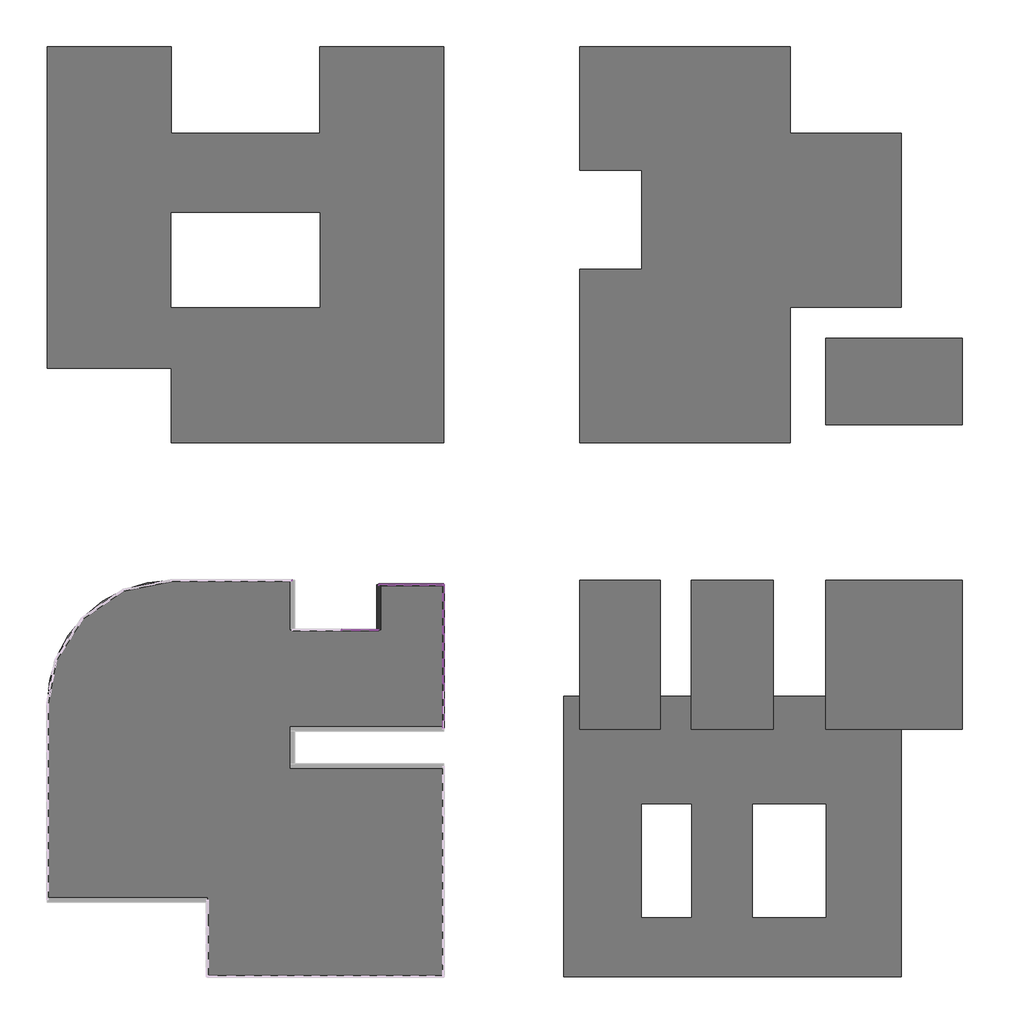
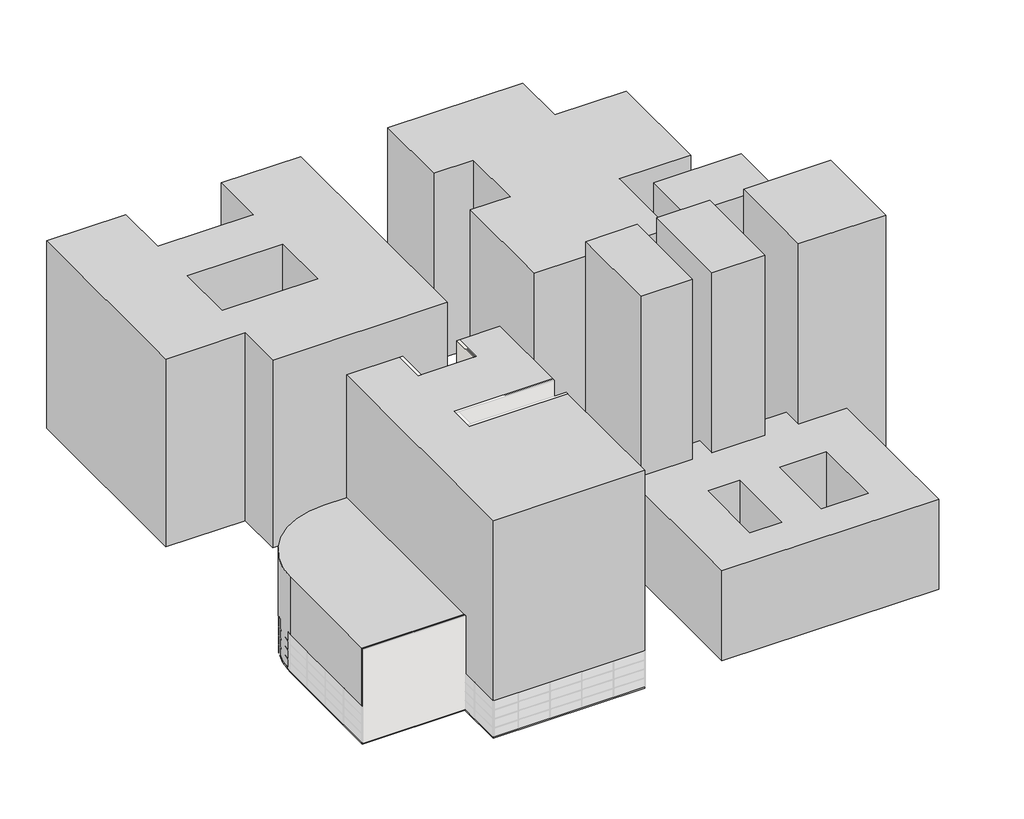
# One storey, part 4 of 4: 60 members, 20 plates, 4 proxies, 1 slab, 1 wall.
"""IFC4 building model written with IfcOpenShell, lengths in millimetres."""

from ifc_helpers import new_model, si_unit, point, frame, frame_2d, origin, origin_with_axes, place, context, project, spatial, polyline, circle_curve, trimmed, segment, composite_curve, outline, extrude, transform, mapped, element, save
from ifc_brep_helpers import plane_surface, cylinder_surface, advanced_brep
from components import rectangular_mullion_50_x_150mm_d99dc9be, rectangular_mullion_50_x_150mm_182bfbd5, rectangular_mullion_50_x_150mm_402ab136, rectangular_mullion_50_x_150mm_6588f46c, rectangular_mullion_50_x_150mm_3fe1b35e, rectangular_mullion_50_x_150mm_a037c29c, rectangular_mullion_50_x_150mm_c2546fd4, rectangular_mullion_50_x_150mm_5eb82d41, rectangular_mullion_50_x_150mm_1a85c1a0, rectangular_mullion_50_x_150mm_185cfd49, rectangular_mullion_50_x_150mm_2fe63767, rectangular_mullion_50_x_150mm_4a524db7, system_panel_glazed_ecbc047f, system_panel_glazed_0d1816dc, system_panel_glazed_8e9402eb, system_panel_glazed_89ac83a7, system_panel_glazed_29e23e46, system_panel_glazed_e3e91f99, system_panel_glazed_0c6ae723, system_panel_glazed_39d17f19

model = new_model("IFC4")

# Units and contexts
model_context = context("Model", 3, world=origin())
ifc_project = project(units=[si_unit("LENGTHUNIT", "METRE", prefix="MILLI")], contexts=[model_context])

# Site, building, storey
site = spatial("IfcSite", under=ifc_project)
building = spatial("IfcBuilding", under=site)
storey = spatial("IfcBuildingStorey", under=building, Name="Suteren", Elevation=0.0)

# Proxies
placement = place(None, origin())
element("IfcBuildingElementProxy", 1, Name="Budova 1 : Budova 1", ObjectType="Budova 1 : Budova 1", at=placement, inside=storey, context=model_context, shape_type="SweptSolid", body=[
    extrude(outline(polyline([(24503.2660975, 41519.7749227), (24503.2660975, 51519.7749227), (41503.2660975, 51519.7749227), (41503.2660975, 44519.7749227), (50503.2660975, 44519.7749227), (50503.2660975, 30457.4517739), (41503.2660975, 30457.4517739), (41503.2660975, 19519.7749227), (24503.2660975, 19519.7749227), (24503.2660975, 33519.7749227), (29503.2660975, 33519.7749227), (29503.2660975, 41519.7749227), (24503.2660975, 41519.7749227)])), origin_with_axes(), (0.0, 0.0, 1.0), 25000.0),
    extrude(outline(polyline([(44401.4778879, 20957.9625489), (44401.4778879, 27957.9625489), (55401.4778879, 27957.9625489), (55401.4778879, 20957.9625489), (44401.4778879, 20957.9625489)])), origin_with_axes(), (0.0, 0.0, 1.0), 25000.0),
])
element("IfcBuildingElementProxy", 2, Name="Budova 2 : Budova 2", ObjectType="Budova 2 : Budova 2", at=placement, inside=storey, context=model_context, shape_type="SweptSolid", body=[
    extrude(outline(polyline([(-18496.7339025, 25519.7749227), (-18496.7339025, 51519.7749227), (-8496.7339025, 51519.7749227), (-8496.7339025, 44519.7749227), (3503.2660975, 44519.7749227), (3503.2660975, 51519.7749227), (13503.2660975, 51519.7749227), (13503.2660975, 19519.7749227), (-8496.7339025, 19519.7749227), (-8496.7339025, 25519.7749227), (-18496.7339025, 25519.7749227)]), holes=[polyline([(-8496.7339025, 38101.0367875), (-8496.7339025, 30457.4517739), (3503.2660975, 30457.4517739), (3503.2660975, 38101.0367875), (-8496.7339025, 38101.0367875)])]), origin_with_axes(), (0.0, 0.0, 1.0), 25000.0),
])
element("IfcBuildingElementProxy", 3, Name="Budova 3 : Budova 3", ObjectType="Budova 3 : Budova 3", at=placement, inside=storey, context=model_context, shape_type="AdvancedBrep", body=[
    advanced_brep(
    [(-5587.173406, 8375.9839566, 28773.2453384), (-5587.173406, -23624.0160434, 28773.2453384), (13503.2660975, -23624.0160434, 28773.2453384), (13503.2660975, -6624.0160434, 28773.2453384), (1278.419219, -6624.0160434, 28773.2453384), (1278.419219, -3624.0160434, 28773.2453384), (13503.2660975, -3624.0160434, 28773.2453384), (13503.2660975, 8039.3555415, 28773.2453384), (8278.419219, 8039.3555415, 28773.2453384), (8278.419219, 4375.9839566, 28773.2453384), (1278.419219, 4375.9839566, 28773.2453384), (1278.419219, 8375.9839566, 28773.2453384), (-18496.7339025, -17423.5291324, 0.0), (-18496.7339025, -1624.0160434, 0.0), (-8496.7339025, 8375.9839566, 0.0), (-5587.173406, 8375.9839566, 0.0), (1278.419219, 8375.9839566, 0.0), (1278.419219, 4375.9839566, 0.0), (8278.419219, 4375.9839566, 0.0), (8278.419219, 8039.3555415, 0.0), (13503.2660975, 8039.3555415, 0.0), (13503.2660975, -3624.0160434, 0.0), (1278.419219, -3624.0160434, 0.0), (1278.419219, -6624.0160434, 0.0), (13503.2660975, -6624.0160434, 0.0), (13503.2660975, -23624.0160434, 0.0), (-5587.173406, -23624.0160434, 0.0), (-5587.173406, -17423.5291324, 0.0), (-5587.173406, -17423.5291324, 12448.4924443), (-18496.7339025, -17423.5291324, 12448.4924443), (-5587.173406, 8375.9839566, 12448.4924443), (-8496.7339025, 8375.9839566, 12448.4924443), (-18496.7339025, -1624.0160434, 12448.4924443)],
    [
        (0, 1),
        (1, 2),
        (2, 3),
        (3, 4),
        (4, 5),
        (5, 6),
        (6, 7),
        (7, 8),
        (8, 9),
        (9, 10),
        (10, 11),
        (11, 0),
        (12, 13),
        (13, 14, circle_curve(frame((-8496.7339025, -1624.0160434, 0.0), z_axis=(0.0, 0.0, -1.0), x_axis=(1.0, 0.0, 0.0)), 10000.0)),
        (14, 15),
        (15, 16),
        (16, 17),
        (17, 18),
        (18, 19),
        (19, 20),
        (20, 21),
        (21, 22),
        (22, 23),
        (23, 24),
        (24, 25),
        (25, 26),
        (26, 27),
        (27, 12),
        (27, 28),
        (28, 29),
        (29, 12),
        (0, 30),
        (30, 28),
        (26, 1),
        (25, 2),
        (24, 3),
        (23, 4),
        (22, 5),
        (21, 6),
        (20, 7),
        (19, 8),
        (18, 9),
        (17, 10),
        (16, 11),
        (15, 30),
        (14, 31),
        (31, 30),
        (13, 32),
        (32, 31, circle_curve(frame((-8496.7339025, -1624.0160434, 12448.4924443), z_axis=(0.0, 0.0, -1.0), x_axis=(1.0, 0.0, 0.0)), 10000.0)),
        (29, 32),
    ],
    [
        plane_surface(frame((-18496.7339025, -17423.5291324, 28773.2453384), z_axis=(0.0, 0.0, 1.0), x_axis=(1.0, 0.0, 0.0))),
        plane_surface(frame((-18496.7339025, -17423.5291324, 0.0), z_axis=(0.0, 0.0, -1.0), x_axis=(-1.0, 0.0, 0.0))),
        plane_surface(frame((-18496.7339025, -17423.5291324, 28773.2453384), z_axis=(0.0, -1.0, 0.0), x_axis=(0.0, 0.0, -1.0))),
        plane_surface(frame((-5587.173406, -17423.5291324, 28773.2453384), z_axis=(-1.0, 0.0, 0.0), x_axis=(0.0, 0.0, -1.0))),
        plane_surface(frame((-5587.173406, -23624.0160434, 28773.2453384), z_axis=(0.0, -1.0, 0.0), x_axis=(0.0, 0.0, -1.0))),
        plane_surface(frame((13503.2660975, -23624.0160434, 28773.2453384), z_axis=(1.0, 0.0, 0.0), x_axis=(0.0, 0.0, -1.0))),
        plane_surface(frame((13503.2660975, -6624.0160434, 28773.2453384), z_axis=(0.0, 1.0, 0.0), x_axis=(0.0, 0.0, -1.0))),
        plane_surface(frame((1278.419219, -6624.0160434, 28773.2453384), z_axis=(1.0, 0.0, 0.0), x_axis=(0.0, 0.0, -1.0))),
        plane_surface(frame((1278.419219, -3624.0160434, 28773.2453384), z_axis=(0.0, -1.0, 0.0), x_axis=(0.0, 0.0, -1.0))),
        plane_surface(frame((13503.2660975, -3624.0160434, 28773.2453384), z_axis=(1.0, 0.0, 0.0), x_axis=(0.0, 0.0, -1.0))),
        plane_surface(frame((13503.2660975, 8039.3555415, 28773.2453384), z_axis=(0.0, 1.0, 0.0), x_axis=(0.0, 0.0, -1.0))),
        plane_surface(frame((8278.419219, 8039.3555415, 28773.2453384), z_axis=(-1.0, 0.0, 0.0), x_axis=(0.0, 0.0, -1.0))),
        plane_surface(frame((8278.419219, 4375.9839566, 28773.2453384), z_axis=(0.0, 1.0, 0.0), x_axis=(0.0, 0.0, -1.0))),
        plane_surface(frame((1278.419219, 4375.9839566, 28773.2453384), z_axis=(1.0, 0.0, 0.0), x_axis=(0.0, 0.0, -1.0))),
        plane_surface(frame((1278.419219, 8375.9839566, 28773.2453384), z_axis=(0.0, 1.0, 0.0), x_axis=(0.0, 0.0, -1.0))),
        plane_surface(frame((-5587.173406, 8375.9839566, 28773.2453384), z_axis=(0.0, 1.0, 0.0), x_axis=(0.0, 0.0, -1.0))),
        cylinder_surface(frame((-8496.7339025, -1624.0160434, 0.0), z_axis=(0.0, 0.0, 1.0), x_axis=(1.0, 0.0, 0.0)), 10000.0),
        plane_surface(frame((-18496.7339025, -1624.0160434, 28773.2453384), z_axis=(-1.0, 0.0, 0.0), x_axis=(0.0, 0.0, -1.0))),
        plane_surface(frame((-5587.173406, 14419.6192508, 12448.4924443), z_axis=(0.0, 0.0, 1.0), x_axis=(0.0, -1.0, 0.0))),
    ],
    [
        (0, [[1, 2, 3, 4, 5, 6, 7, 8, 9, 10, 11, 12]]),
        (1, [[13, 14, 15, 16, 17, 18, 19, 20, 21, 22, 23, 24, 25, 26, 27, 28]]),
        (2, [[-28, 29, 30, 31]]),
        (3, [[32, 33, -29, -27, 34, -1]]),
        (4, [[-2, -34, -26, 35]]),
        (5, [[-3, -35, -25, 36]]),
        (6, [[-4, -36, -24, 37]]),
        (7, [[-5, -37, -23, 38]]),
        (8, [[-6, -38, -22, 39]]),
        (9, [[-7, -39, -21, 40]]),
        (10, [[-8, -40, -20, 41]]),
        (11, [[-9, -41, -19, 42]]),
        (12, [[-10, -42, -18, 43]]),
        (13, [[-11, -43, -17, 44]]),
        (14, [[-12, -44, -16, 45, -32]]),
        (15, [[-15, 46, 47, -45]]),
        (16, [[-14, 48, 49, -46]]),
        (17, [[-13, -31, 50, -48]]),
        (18, [[-33, -47, -49, -50, -30]]),
    ],
),
])
element("IfcBuildingElementProxy", 4, Name="Budova 4 : Budova 4", ObjectType="Budova 4 : Budova 4", at=placement, inside=storey, context=model_context, shape_type="SweptSolid", body=[
    extrude(outline(polyline([(31028.3078366, 8375.9839566), (31028.3078366, -3624.0160434), (24503.2660975, -3624.0160434), (24503.2660975, 8375.9839566), (31028.3078366, 8375.9839566)])), origin_with_axes(), (0.0, 0.0, 1.0), 36000.0),
    extrude(outline(polyline([(40154.0002696, 8375.9839566), (40154.0002696, -3624.0160434), (33503.2660975, -3624.0160434), (33503.2660975, 8375.9839566), (40154.0002696, 8375.9839566)])), origin_with_axes(), (0.0, 0.0, 1.0), 36000.0),
    extrude(outline(polyline([(44401.4778879, -3624.0160434), (44401.4778879, 8375.9839566), (55401.4778879, 8375.9839566), (55401.4778879, -3624.0160434), (44401.4778879, -3624.0160434)])), origin_with_axes(), (0.0, 0.0, 1.0), 36000.0),
    extrude(outline(polyline([(24503.2660975, -967.486669), (24503.2660975, -3624.0160434), (31028.3078366, -3624.0160434), (31028.3078366, -967.486669), (33503.2660975, -967.486669), (33503.2660975, -3624.0160434), (40154.0002696, -3624.0160434), (40154.0002696, -967.486669), (44401.4778879, -967.486669), (44401.4778879, -3624.0160434), (50503.2660975, -3624.0160434), (50503.2660975, -23624.0160434), (23208.2992989, -23624.0160434), (23208.2992989, -967.486669), (24503.2660975, -967.486669)]), holes=[polyline([(44401.4778879, -9707.9757481), (38503.2660975, -9707.9757481), (38503.2660975, -18836.9310085), (44401.4778879, -18836.9310085), (44401.4778879, -9707.9757481)]), polyline([(33503.2660975, -9707.9757481), (29503.2660975, -9707.9757481), (29503.2660975, -18836.9310085), (33503.2660975, -18836.9310085), (33503.2660975, -9707.9757481)])]), origin_with_axes(), (0.0, 0.0, 1.0), 12000.0),
])

# Members
rectangular_mullion_50_x_150mm_shape = rectangular_mullion_50_x_150mm_d99dc9be(model_context)
element("IfcMember", 5, ObjectType="Rectangular Mullion : 50 x 150mm", at=placement, inside=storey, context=model_context, shape_type="MappedRepresentation", body=[
    mapped(rectangular_mullion_50_x_150mm_shape, transform((13503.2660975, 39.3555415, 4800.0), x_axis=(0.0, -1.0, 0.0), y_axis=(1.0, 0.0, 0.0), z_axis=(0.0, 0.0, 1.0))),
])
element("IfcMember", 6, ObjectType="Rectangular Mullion : 50 x 150mm", at=placement, inside=storey, context=model_context, shape_type="MappedRepresentation", body=[
    mapped(rectangular_mullion_50_x_150mm_shape, transform((13503.2660975, 39.3555415, 3600.0), x_axis=(0.0, -1.0, 0.0), y_axis=(1.0, 0.0, 0.0), z_axis=(0.0, 0.0, 1.0))),
])
element("IfcMember", 7, ObjectType="Rectangular Mullion : 50 x 150mm", at=placement, inside=storey, context=model_context, shape_type="MappedRepresentation", body=[
    mapped(rectangular_mullion_50_x_150mm_shape, transform((13503.2660975, 39.3555415, 2400.0), x_axis=(0.0, -1.0, 0.0), y_axis=(1.0, 0.0, 0.0), z_axis=(0.0, 0.0, 1.0))),
])
element("IfcMember", 8, ObjectType="Rectangular Mullion : 50 x 150mm", at=placement, inside=storey, context=model_context, shape_type="MappedRepresentation", body=[
    mapped(rectangular_mullion_50_x_150mm_shape, transform((13503.2660975, 4039.3555415, 4800.0), x_axis=(0.0, -1.0, 0.0), y_axis=(1.0, 0.0, 0.0), z_axis=(0.0, 0.0, 1.0))),
])
element("IfcMember", 9, ObjectType="Rectangular Mullion : 50 x 150mm", at=placement, inside=storey, context=model_context, shape_type="MappedRepresentation", body=[
    mapped(rectangular_mullion_50_x_150mm_shape, transform((13503.2660975, 4039.3555415, 3600.0), x_axis=(0.0, -1.0, 0.0), y_axis=(1.0, 0.0, 0.0), z_axis=(0.0, 0.0, 1.0))),
])
element("IfcMember", 10, ObjectType="Rectangular Mullion : 50 x 150mm", at=placement, inside=storey, context=model_context, shape_type="MappedRepresentation", body=[
    mapped(rectangular_mullion_50_x_150mm_shape, transform((13503.2660975, 4039.3555415, 2400.0), x_axis=(0.0, -1.0, 0.0), y_axis=(1.0, 0.0, 0.0), z_axis=(0.0, 0.0, 1.0))),
])
element("IfcMember", 11, ObjectType="Rectangular Mullion : 50 x 150mm", at=placement, inside=storey, context=model_context, shape_type="MappedRepresentation", body=[
    mapped(rectangular_mullion_50_x_150mm_shape, transform((5278.419219, 4375.9839566, 2400.0), x_axis=(1.0, 0.0, 0.0), y_axis=(0.0, 1.0, 0.0), z_axis=(0.0, 0.0, 1.0))),
])
element("IfcMember", 12, ObjectType="Rectangular Mullion : 50 x 150mm", at=placement, inside=storey, context=model_context, shape_type="MappedRepresentation", body=[
    mapped(rectangular_mullion_50_x_150mm_shape, transform((5278.419219, 4375.9839566, 3600.0), x_axis=(1.0, 0.0, 0.0), y_axis=(0.0, 1.0, 0.0), z_axis=(0.0, 0.0, 1.0))),
])
element("IfcMember", 13, ObjectType="Rectangular Mullion : 50 x 150mm", at=placement, inside=storey, context=model_context, shape_type="MappedRepresentation", body=[
    mapped(rectangular_mullion_50_x_150mm_shape, transform((5278.419219, 4375.9839566, 4800.0), x_axis=(1.0, 0.0, 0.0), y_axis=(0.0, 1.0, 0.0), z_axis=(0.0, 0.0, 1.0))),
])
element("IfcMember", 14, ObjectType="Rectangular Mullion : 50 x 150mm", at=placement, inside=storey, context=model_context, shape_type="MappedRepresentation", body=[
    mapped(rectangular_mullion_50_x_150mm_shape, transform((12278.419219, 8039.3555415, 2400.0), x_axis=(1.0, 0.0, 0.0), y_axis=(0.0, 1.0, 0.0), z_axis=(0.0, 0.0, 1.0))),
])
element("IfcMember", 15, ObjectType="Rectangular Mullion : 50 x 150mm", at=placement, inside=storey, context=model_context, shape_type="MappedRepresentation", body=[
    mapped(rectangular_mullion_50_x_150mm_shape, transform((12278.419219, 8039.3555415, 3600.0), x_axis=(1.0, 0.0, 0.0), y_axis=(0.0, 1.0, 0.0), z_axis=(0.0, 0.0, 1.0))),
])
element("IfcMember", 16, ObjectType="Rectangular Mullion : 50 x 150mm", at=placement, inside=storey, context=model_context, shape_type="MappedRepresentation", body=[
    mapped(rectangular_mullion_50_x_150mm_shape, transform((12278.419219, 8039.3555415, 4800.0), x_axis=(1.0, 0.0, 0.0), y_axis=(0.0, 1.0, 0.0), z_axis=(0.0, 0.0, 1.0))),
])
element("IfcMember", 17, ObjectType="Rectangular Mullion : 50 x 150mm", at=placement, inside=storey, context=model_context, shape_type="MappedRepresentation", body=[
    mapped(rectangular_mullion_50_x_150mm_shape, transform((13503.2660975, 39.3555415, 1200.0), x_axis=(0.0, -1.0, 0.0), y_axis=(1.0, 0.0, 0.0), z_axis=(0.0, 0.0, 1.0))),
])
element("IfcMember", 18, ObjectType="Rectangular Mullion : 50 x 150mm", at=placement, inside=storey, context=model_context, shape_type="MappedRepresentation", body=[
    mapped(rectangular_mullion_50_x_150mm_shape, transform((13503.2660975, 4039.3555415, 1200.0), x_axis=(0.0, -1.0, 0.0), y_axis=(1.0, 0.0, 0.0), z_axis=(0.0, 0.0, 1.0))),
])
element("IfcMember", 19, ObjectType="Rectangular Mullion : 50 x 150mm", at=placement, inside=storey, context=model_context, shape_type="MappedRepresentation", body=[
    mapped(rectangular_mullion_50_x_150mm_shape, transform((5278.419219, 4375.9839566, 1200.0), x_axis=(1.0, 0.0, 0.0), y_axis=(0.0, 1.0, 0.0), z_axis=(0.0, 0.0, 1.0))),
])
element("IfcMember", 20, ObjectType="Rectangular Mullion : 50 x 150mm", at=placement, inside=storey, context=model_context, shape_type="MappedRepresentation", body=[
    mapped(rectangular_mullion_50_x_150mm_shape, transform((12278.419219, 8039.3555415, 1200.0), x_axis=(1.0, 0.0, 0.0), y_axis=(0.0, 1.0, 0.0), z_axis=(0.0, 0.0, 1.0))),
])
rectangular_mullion_50_x_150mm_2_shape = rectangular_mullion_50_x_150mm_182bfbd5(model_context)
element("IfcMember", 21, ObjectType="Rectangular Mullion : 50 x 150mm", at=placement, inside=storey, context=model_context, shape_type="MappedRepresentation", body=[
    mapped(rectangular_mullion_50_x_150mm_2_shape, transform((13503.2660975, 64.3555415, 0.0), x_axis=(0.0, 0.0, -1.0), y_axis=(1.0, 0.0, 0.0), z_axis=(0.0, -1.0, 0.0))),
])
rectangular_mullion_50_x_150mm_3_shape = rectangular_mullion_50_x_150mm_402ab136(model_context)
element("IfcMember", 22, ObjectType="Rectangular Mullion : 50 x 150mm", at=placement, inside=storey, context=model_context, shape_type="MappedRepresentation", body=[
    mapped(rectangular_mullion_50_x_150mm_3_shape, transform((13503.2660975, 4064.3555415, 0.0), x_axis=(0.0, 0.0, -1.0), y_axis=(1.0, 0.0, 0.0), z_axis=(0.0, -1.0, 0.0))),
])
element("IfcMember", 23, ObjectType="Rectangular Mullion : 50 x 150mm", at=placement, inside=storey, context=model_context, shape_type="MappedRepresentation", body=[
    mapped(rectangular_mullion_50_x_150mm_3_shape, transform((5253.419219, 4375.9839566, 0.0), x_axis=(0.0, 0.0, -1.0), y_axis=(0.0, 1.0, 0.0), z_axis=(1.0, 0.0, 0.0))),
])
element("IfcMember", 24, ObjectType="Rectangular Mullion : 50 x 150mm", at=placement, inside=storey, context=model_context, shape_type="MappedRepresentation", body=[
    mapped(rectangular_mullion_50_x_150mm_3_shape, transform((12253.419219, 8039.3555415, 0.0), x_axis=(0.0, 0.0, -1.0), y_axis=(0.0, 1.0, 0.0), z_axis=(1.0, 0.0, 0.0))),
])
rectangular_mullion_50_x_150mm_4_shape = rectangular_mullion_50_x_150mm_6588f46c(model_context)
element("IfcMember", 25, ObjectType="Rectangular Mullion : 50 x 150mm", at=placement, inside=storey, context=model_context, shape_type="MappedRepresentation", body=[
    mapped(rectangular_mullion_50_x_150mm_4_shape, transform((1278.419219, 8375.9839566, 2400.0), x_axis=(1.0, 0.0, 0.0), y_axis=(0.0, 1.0, 0.0), z_axis=(0.0, 0.0, 1.0))),
])
element("IfcMember", 26, ObjectType="Rectangular Mullion : 50 x 150mm", at=placement, inside=storey, context=model_context, shape_type="MappedRepresentation", body=[
    mapped(rectangular_mullion_50_x_150mm_4_shape, transform((1278.419219, 8375.9839566, 3600.0), x_axis=(1.0, 0.0, 0.0), y_axis=(0.0, 1.0, 0.0), z_axis=(0.0, 0.0, 1.0))),
])
element("IfcMember", 27, ObjectType="Rectangular Mullion : 50 x 150mm", at=placement, inside=storey, context=model_context, shape_type="MappedRepresentation", body=[
    mapped(rectangular_mullion_50_x_150mm_4_shape, transform((1278.419219, 8375.9839566, 4800.0), x_axis=(1.0, 0.0, 0.0), y_axis=(0.0, 1.0, 0.0), z_axis=(0.0, 0.0, 1.0))),
])
element("IfcMember", 28, ObjectType="Rectangular Mullion : 50 x 150mm", at=placement, inside=storey, context=model_context, shape_type="MappedRepresentation", body=[
    mapped(rectangular_mullion_50_x_150mm_4_shape, transform((8278.419219, 4375.9839566, 2400.0), x_axis=(1.0, 0.0, 0.0), y_axis=(0.0, 1.0, 0.0), z_axis=(0.0, 0.0, 1.0))),
])
element("IfcMember", 29, ObjectType="Rectangular Mullion : 50 x 150mm", at=placement, inside=storey, context=model_context, shape_type="MappedRepresentation", body=[
    mapped(rectangular_mullion_50_x_150mm_4_shape, transform((8278.419219, 4375.9839566, 3600.0), x_axis=(1.0, 0.0, 0.0), y_axis=(0.0, 1.0, 0.0), z_axis=(0.0, 0.0, 1.0))),
])
element("IfcMember", 30, ObjectType="Rectangular Mullion : 50 x 150mm", at=placement, inside=storey, context=model_context, shape_type="MappedRepresentation", body=[
    mapped(rectangular_mullion_50_x_150mm_4_shape, transform((8278.419219, 4375.9839566, 4800.0), x_axis=(1.0, 0.0, 0.0), y_axis=(0.0, 1.0, 0.0), z_axis=(0.0, 0.0, 1.0))),
])
element("IfcMember", 31, ObjectType="Rectangular Mullion : 50 x 150mm", at=placement, inside=storey, context=model_context, shape_type="MappedRepresentation", body=[
    mapped(rectangular_mullion_50_x_150mm_4_shape, transform((13503.2660975, 8039.3555415, 2400.0), x_axis=(1.0, 0.0, 0.0), y_axis=(0.0, 1.0, 0.0), z_axis=(0.0, 0.0, 1.0))),
])
element("IfcMember", 32, ObjectType="Rectangular Mullion : 50 x 150mm", at=placement, inside=storey, context=model_context, shape_type="MappedRepresentation", body=[
    mapped(rectangular_mullion_50_x_150mm_4_shape, transform((13503.2660975, 8039.3555415, 3600.0), x_axis=(1.0, 0.0, 0.0), y_axis=(0.0, 1.0, 0.0), z_axis=(0.0, 0.0, 1.0))),
])
element("IfcMember", 33, ObjectType="Rectangular Mullion : 50 x 150mm", at=placement, inside=storey, context=model_context, shape_type="MappedRepresentation", body=[
    mapped(rectangular_mullion_50_x_150mm_4_shape, transform((13503.2660975, 8039.3555415, 4800.0), x_axis=(1.0, 0.0, 0.0), y_axis=(0.0, 1.0, 0.0), z_axis=(0.0, 0.0, 1.0))),
])
element("IfcMember", 34, ObjectType="Rectangular Mullion : 50 x 150mm", at=placement, inside=storey, context=model_context, shape_type="MappedRepresentation", body=[
    mapped(rectangular_mullion_50_x_150mm_4_shape, transform((1278.419219, 8375.9839566, 1200.0), x_axis=(1.0, 0.0, 0.0), y_axis=(0.0, 1.0, 0.0), z_axis=(0.0, 0.0, 1.0))),
])
element("IfcMember", 35, ObjectType="Rectangular Mullion : 50 x 150mm", at=placement, inside=storey, context=model_context, shape_type="MappedRepresentation", body=[
    mapped(rectangular_mullion_50_x_150mm_4_shape, transform((8278.419219, 4375.9839566, 1200.0), x_axis=(1.0, 0.0, 0.0), y_axis=(0.0, 1.0, 0.0), z_axis=(0.0, 0.0, 1.0))),
])
element("IfcMember", 36, ObjectType="Rectangular Mullion : 50 x 150mm", at=placement, inside=storey, context=model_context, shape_type="MappedRepresentation", body=[
    mapped(rectangular_mullion_50_x_150mm_4_shape, transform((13503.2660975, 8039.3555415, 1200.0), x_axis=(1.0, 0.0, 0.0), y_axis=(0.0, 1.0, 0.0), z_axis=(0.0, 0.0, 1.0))),
])
rectangular_mullion_50_x_150mm_5_shape = rectangular_mullion_50_x_150mm_3fe1b35e(model_context)
element("IfcMember", 37, ObjectType="Rectangular Mullion : 50 x 150mm", at=placement, inside=storey, context=model_context, shape_type="MappedRepresentation", body=[
    mapped(rectangular_mullion_50_x_150mm_5_shape, transform((13503.2660975, 14.3555415, 3600.0), x_axis=(0.0, 0.0, 1.0), y_axis=(1.0, 0.0, 0.0), z_axis=(0.0, 1.0, 0.0))),
])
element("IfcMember", 38, ObjectType="Rectangular Mullion : 50 x 150mm", at=placement, inside=storey, context=model_context, shape_type="MappedRepresentation", body=[
    mapped(rectangular_mullion_50_x_150mm_5_shape, transform((13503.2660975, 14.3555415, 2400.0), x_axis=(0.0, 0.0, 1.0), y_axis=(1.0, 0.0, 0.0), z_axis=(0.0, 1.0, 0.0))),
])
element("IfcMember", 39, ObjectType="Rectangular Mullion : 50 x 150mm", at=placement, inside=storey, context=model_context, shape_type="MappedRepresentation", body=[
    mapped(rectangular_mullion_50_x_150mm_5_shape, transform((13503.2660975, 14.3555415, 1200.0), x_axis=(0.0, 0.0, 1.0), y_axis=(1.0, 0.0, 0.0), z_axis=(0.0, 1.0, 0.0))),
])
rectangular_mullion_50_x_150mm_6_shape = rectangular_mullion_50_x_150mm_a037c29c(model_context)
element("IfcMember", 40, ObjectType="Rectangular Mullion : 50 x 150mm", at=placement, inside=storey, context=model_context, shape_type="MappedRepresentation", body=[
    mapped(rectangular_mullion_50_x_150mm_6_shape, transform((13503.2660975, 4014.3555415, 3600.0), x_axis=(0.0, 0.0, 1.0), y_axis=(1.0, 0.0, 0.0), z_axis=(0.0, 1.0, 0.0))),
])
element("IfcMember", 41, ObjectType="Rectangular Mullion : 50 x 150mm", at=placement, inside=storey, context=model_context, shape_type="MappedRepresentation", body=[
    mapped(rectangular_mullion_50_x_150mm_6_shape, transform((13503.2660975, 4014.3555415, 2400.0), x_axis=(0.0, 0.0, 1.0), y_axis=(1.0, 0.0, 0.0), z_axis=(0.0, 1.0, 0.0))),
])
element("IfcMember", 42, ObjectType="Rectangular Mullion : 50 x 150mm", at=placement, inside=storey, context=model_context, shape_type="MappedRepresentation", body=[
    mapped(rectangular_mullion_50_x_150mm_6_shape, transform((13503.2660975, 4014.3555415, 1200.0), x_axis=(0.0, 0.0, 1.0), y_axis=(1.0, 0.0, 0.0), z_axis=(0.0, 1.0, 0.0))),
])
rectangular_mullion_50_x_150mm_7_shape = rectangular_mullion_50_x_150mm_c2546fd4(model_context)
element("IfcMember", 43, ObjectType="Rectangular Mullion : 50 x 150mm", at=placement, inside=storey, context=model_context, shape_type="MappedRepresentation", body=[
    mapped(rectangular_mullion_50_x_150mm_7_shape, transform((13503.2660975, 7989.3555415, 3600.0), x_axis=(0.0, 0.0, 1.0), y_axis=(1.0, 0.0, 0.0), z_axis=(0.0, 1.0, 0.0))),
])
element("IfcMember", 44, ObjectType="Rectangular Mullion : 50 x 150mm", at=placement, inside=storey, context=model_context, shape_type="MappedRepresentation", body=[
    mapped(rectangular_mullion_50_x_150mm_7_shape, transform((13503.2660975, 7989.3555415, 2400.0), x_axis=(0.0, 0.0, 1.0), y_axis=(1.0, 0.0, 0.0), z_axis=(0.0, 1.0, 0.0))),
])
element("IfcMember", 45, ObjectType="Rectangular Mullion : 50 x 150mm", at=placement, inside=storey, context=model_context, shape_type="MappedRepresentation", body=[
    mapped(rectangular_mullion_50_x_150mm_7_shape, transform((13503.2660975, 7989.3555415, 1200.0), x_axis=(0.0, 0.0, 1.0), y_axis=(1.0, 0.0, 0.0), z_axis=(0.0, 1.0, 0.0))),
])
element("IfcMember", 46, ObjectType="Rectangular Mullion : 50 x 150mm", at=placement, inside=storey, context=model_context, shape_type="MappedRepresentation", body=[
    mapped(rectangular_mullion_50_x_150mm_7_shape, transform((8328.419219, 8039.3555415, 1200.0), x_axis=(0.0, 0.0, 1.0), y_axis=(0.0, 1.0, 0.0), z_axis=(-1.0, 0.0, 0.0))),
])
element("IfcMember", 47, ObjectType="Rectangular Mullion : 50 x 150mm", at=placement, inside=storey, context=model_context, shape_type="MappedRepresentation", body=[
    mapped(rectangular_mullion_50_x_150mm_7_shape, transform((8328.419219, 8039.3555415, 2400.0), x_axis=(0.0, 0.0, 1.0), y_axis=(0.0, 1.0, 0.0), z_axis=(-1.0, 0.0, 0.0))),
])
element("IfcMember", 48, ObjectType="Rectangular Mullion : 50 x 150mm", at=placement, inside=storey, context=model_context, shape_type="MappedRepresentation", body=[
    mapped(rectangular_mullion_50_x_150mm_7_shape, transform((8328.419219, 8039.3555415, 3600.0), x_axis=(0.0, 0.0, 1.0), y_axis=(0.0, 1.0, 0.0), z_axis=(-1.0, 0.0, 0.0))),
])
element("IfcMember", 49, ObjectType="Rectangular Mullion : 50 x 150mm", at=placement, inside=storey, context=model_context, shape_type="MappedRepresentation", body=[
    mapped(rectangular_mullion_50_x_150mm_4_shape, transform((13503.2660975, 8039.3555415, 3600.0), x_axis=(0.0, 1.0, 0.0), y_axis=(1.0, 0.0, 0.0), z_axis=(0.0, 0.0, -1.0))),
])
element("IfcMember", 50, ObjectType="Rectangular Mullion : 50 x 150mm", at=placement, inside=storey, context=model_context, shape_type="MappedRepresentation", body=[
    mapped(rectangular_mullion_50_x_150mm_4_shape, transform((13503.2660975, 8039.3555415, 2400.0), x_axis=(0.0, 1.0, 0.0), y_axis=(1.0, 0.0, 0.0), z_axis=(0.0, 0.0, -1.0))),
])
element("IfcMember", 51, ObjectType="Rectangular Mullion : 50 x 150mm", at=placement, inside=storey, context=model_context, shape_type="MappedRepresentation", body=[
    mapped(rectangular_mullion_50_x_150mm_4_shape, transform((13503.2660975, 8039.3555415, 1200.0), x_axis=(0.0, 1.0, 0.0), y_axis=(1.0, 0.0, 0.0), z_axis=(0.0, 0.0, -1.0))),
])
element("IfcMember", 52, ObjectType="Rectangular Mullion : 50 x 150mm", at=placement, inside=storey, context=model_context, shape_type="MappedRepresentation", body=[
    mapped(rectangular_mullion_50_x_150mm_4_shape, transform((8278.419219, 8039.3555415, 1200.0), x_axis=(-1.0, 0.0, 0.0), y_axis=(0.0, 1.0, 0.0), z_axis=(0.0, 0.0, -1.0))),
])
element("IfcMember", 53, ObjectType="Rectangular Mullion : 50 x 150mm", at=placement, inside=storey, context=model_context, shape_type="MappedRepresentation", body=[
    mapped(rectangular_mullion_50_x_150mm_4_shape, transform((8278.419219, 8039.3555415, 2400.0), x_axis=(-1.0, 0.0, 0.0), y_axis=(0.0, 1.0, 0.0), z_axis=(0.0, 0.0, -1.0))),
])
element("IfcMember", 54, ObjectType="Rectangular Mullion : 50 x 150mm", at=placement, inside=storey, context=model_context, shape_type="MappedRepresentation", body=[
    mapped(rectangular_mullion_50_x_150mm_4_shape, transform((8278.419219, 8039.3555415, 3600.0), x_axis=(-1.0, 0.0, 0.0), y_axis=(0.0, 1.0, 0.0), z_axis=(0.0, 0.0, -1.0))),
])
element("IfcMember", 55, ObjectType="Rectangular Mullion : 50 x 150mm", at=placement, inside=storey, context=model_context, shape_type="MappedRepresentation", body=[
    mapped(rectangular_mullion_50_x_150mm_4_shape, transform((13503.2660975, 8039.3555415, 0.0), x_axis=(0.0, 1.0, 0.0), y_axis=(1.0, 0.0, 0.0), z_axis=(0.0, 0.0, -1.0))),
])
element("IfcMember", 56, ObjectType="Rectangular Mullion : 50 x 150mm", at=placement, inside=storey, context=model_context, shape_type="MappedRepresentation", body=[
    mapped(rectangular_mullion_50_x_150mm_4_shape, transform((8278.419219, 8039.3555415, 0.0), x_axis=(-1.0, 0.0, 0.0), y_axis=(0.0, 1.0, 0.0), z_axis=(0.0, 0.0, -1.0))),
])
rectangular_mullion_50_x_150mm_8_shape = rectangular_mullion_50_x_150mm_5eb82d41(model_context)
element("IfcMember", 57, ObjectType="Rectangular Mullion : 50 x 150mm", at=placement, inside=storey, context=model_context, shape_type="MappedRepresentation", body=[
    mapped(rectangular_mullion_50_x_150mm_8_shape, transform((1228.419219, 8375.9839566, 0.0), x_axis=(0.0, 0.0, -1.0), y_axis=(0.0, 1.0, 0.0), z_axis=(1.0, 0.0, 0.0))),
])
rectangular_mullion_50_x_150mm_9_shape = rectangular_mullion_50_x_150mm_1a85c1a0(model_context)
element("IfcMember", 58, ObjectType="Rectangular Mullion : 50 x 150mm", at=placement, inside=storey, context=model_context, shape_type="MappedRepresentation", body=[
    mapped(rectangular_mullion_50_x_150mm_9_shape, transform((8228.419219, 4375.9839566, 0.0), x_axis=(0.0, 0.0, -1.0), y_axis=(0.0, 1.0, 0.0), z_axis=(1.0, 0.0, 0.0))),
])
rectangular_mullion_50_x_150mm_10_shape = rectangular_mullion_50_x_150mm_185cfd49(model_context)
element("IfcMember", 59, ObjectType="Rectangular Mullion : 50 x 150mm", at=placement, inside=storey, context=model_context, shape_type="MappedRepresentation", body=[
    mapped(rectangular_mullion_50_x_150mm_10_shape, transform((5303.419219, 4375.9839566, 2400.0), x_axis=(0.0, 0.0, 1.0), y_axis=(0.0, 1.0, 0.0), z_axis=(-1.0, 0.0, 0.0))),
])
element("IfcMember", 60, ObjectType="Rectangular Mullion : 50 x 150mm", at=placement, inside=storey, context=model_context, shape_type="MappedRepresentation", body=[
    mapped(rectangular_mullion_50_x_150mm_10_shape, transform((5303.419219, 4375.9839566, 3600.0), x_axis=(0.0, 0.0, 1.0), y_axis=(0.0, 1.0, 0.0), z_axis=(-1.0, 0.0, 0.0))),
])
rectangular_mullion_50_x_150mm_11_shape = rectangular_mullion_50_x_150mm_2fe63767(model_context)
element("IfcMember", 61, ObjectType="Rectangular Mullion : 50 x 150mm", at=placement, inside=storey, context=model_context, shape_type="MappedRepresentation", body=[
    mapped(rectangular_mullion_50_x_150mm_11_shape, transform((12303.419219, 8039.3555415, 1200.0), x_axis=(0.0, 0.0, 1.0), y_axis=(0.0, 1.0, 0.0), z_axis=(-1.0, 0.0, 0.0))),
])
element("IfcMember", 62, ObjectType="Rectangular Mullion : 50 x 150mm", at=placement, inside=storey, context=model_context, shape_type="MappedRepresentation", body=[
    mapped(rectangular_mullion_50_x_150mm_11_shape, transform((12303.419219, 8039.3555415, 2400.0), x_axis=(0.0, 0.0, 1.0), y_axis=(0.0, 1.0, 0.0), z_axis=(-1.0, 0.0, 0.0))),
])
element("IfcMember", 63, ObjectType="Rectangular Mullion : 50 x 150mm", at=placement, inside=storey, context=model_context, shape_type="MappedRepresentation", body=[
    mapped(rectangular_mullion_50_x_150mm_11_shape, transform((12303.419219, 8039.3555415, 3600.0), x_axis=(0.0, 0.0, 1.0), y_axis=(0.0, 1.0, 0.0), z_axis=(-1.0, 0.0, 0.0))),
])
rectangular_mullion_50_x_150mm_12_shape = rectangular_mullion_50_x_150mm_4a524db7(model_context)
element("IfcMember", 64, ObjectType="Rectangular Mullion : 50 x 150mm", at=placement, inside=storey, context=model_context, shape_type="MappedRepresentation", body=[
    mapped(rectangular_mullion_50_x_150mm_12_shape, transform((13453.2660975, 8039.3555415, 0.0), x_axis=(0.0, 0.0, -1.0), y_axis=(0.0, 1.0, 0.0), z_axis=(1.0, 0.0, 0.0))),
])

# Plates
system_panel_glazed_shape = system_panel_glazed_ecbc047f(model_context)
element("IfcPlate", 65, ObjectType="System Panel : Glazed", at=placement, inside=storey, context=model_context, shape_type="MappedRepresentation", body=[
    mapped(system_panel_glazed_shape, transform((13503.2660975, 6026.8555415, 50.0), x_axis=(0.0, -1.0, 0.0), y_axis=(1.0, 0.0, 0.0), z_axis=(0.0, 0.0, 1.0))),
])
element("IfcPlate", 66, ObjectType="System Panel : Glazed", at=placement, inside=storey, context=model_context, shape_type="MappedRepresentation", body=[
    mapped(system_panel_glazed_shape, transform((10290.919219, 8039.3555415, 50.0), x_axis=(1.0, 0.0, 0.0), y_axis=(0.0, 1.0, 0.0), z_axis=(0.0, 0.0, 1.0))),
])
system_panel_glazed_2_shape = system_panel_glazed_0d1816dc(model_context)
element("IfcPlate", 67, ObjectType="System Panel : Glazed", at=placement, inside=storey, context=model_context, shape_type="MappedRepresentation", body=[
    mapped(system_panel_glazed_2_shape, transform((13503.2660975, 2039.3555415, 50.0), x_axis=(0.0, -1.0, 0.0), y_axis=(1.0, 0.0, 0.0), z_axis=(0.0, 0.0, 1.0))),
])
system_panel_glazed_3_shape = system_panel_glazed_8e9402eb(model_context)
element("IfcPlate", 68, ObjectType="System Panel : Glazed", at=placement, inside=storey, context=model_context, shape_type="MappedRepresentation", body=[
    mapped(system_panel_glazed_3_shape, transform((13503.2660975, 6026.8555415, 1225.0), x_axis=(0.0, -1.0, 0.0), y_axis=(1.0, 0.0, 0.0), z_axis=(0.0, 0.0, 1.0))),
])
element("IfcPlate", 69, ObjectType="System Panel : Glazed", at=placement, inside=storey, context=model_context, shape_type="MappedRepresentation", body=[
    mapped(system_panel_glazed_3_shape, transform((13503.2660975, 6026.8555415, 2425.0), x_axis=(0.0, -1.0, 0.0), y_axis=(1.0, 0.0, 0.0), z_axis=(0.0, 0.0, 1.0))),
])
element("IfcPlate", 70, ObjectType="System Panel : Glazed", at=placement, inside=storey, context=model_context, shape_type="MappedRepresentation", body=[
    mapped(system_panel_glazed_3_shape, transform((13503.2660975, 6026.8555415, 3625.0), x_axis=(0.0, -1.0, 0.0), y_axis=(1.0, 0.0, 0.0), z_axis=(0.0, 0.0, 1.0))),
])
element("IfcPlate", 71, ObjectType="System Panel : Glazed", at=placement, inside=storey, context=model_context, shape_type="MappedRepresentation", body=[
    mapped(system_panel_glazed_3_shape, transform((10290.919219, 8039.3555415, 1225.0), x_axis=(1.0, 0.0, 0.0), y_axis=(0.0, 1.0, 0.0), z_axis=(0.0, 0.0, 1.0))),
])
element("IfcPlate", 72, ObjectType="System Panel : Glazed", at=placement, inside=storey, context=model_context, shape_type="MappedRepresentation", body=[
    mapped(system_panel_glazed_3_shape, transform((10290.919219, 8039.3555415, 2425.0), x_axis=(1.0, 0.0, 0.0), y_axis=(0.0, 1.0, 0.0), z_axis=(0.0, 0.0, 1.0))),
])
element("IfcPlate", 73, ObjectType="System Panel : Glazed", at=placement, inside=storey, context=model_context, shape_type="MappedRepresentation", body=[
    mapped(system_panel_glazed_3_shape, transform((10290.919219, 8039.3555415, 3625.0), x_axis=(1.0, 0.0, 0.0), y_axis=(0.0, 1.0, 0.0), z_axis=(0.0, 0.0, 1.0))),
])
system_panel_glazed_4_shape = system_panel_glazed_89ac83a7(model_context)
element("IfcPlate", 74, ObjectType="System Panel : Glazed", at=placement, inside=storey, context=model_context, shape_type="MappedRepresentation", body=[
    mapped(system_panel_glazed_4_shape, transform((13503.2660975, 2039.3555415, 1225.0), x_axis=(0.0, -1.0, 0.0), y_axis=(1.0, 0.0, 0.0), z_axis=(0.0, 0.0, 1.0))),
])
element("IfcPlate", 75, ObjectType="System Panel : Glazed", at=placement, inside=storey, context=model_context, shape_type="MappedRepresentation", body=[
    mapped(system_panel_glazed_4_shape, transform((13503.2660975, 2039.3555415, 2425.0), x_axis=(0.0, -1.0, 0.0), y_axis=(1.0, 0.0, 0.0), z_axis=(0.0, 0.0, 1.0))),
])
element("IfcPlate", 76, ObjectType="System Panel : Glazed", at=placement, inside=storey, context=model_context, shape_type="MappedRepresentation", body=[
    mapped(system_panel_glazed_4_shape, transform((13503.2660975, 2039.3555415, 3625.0), x_axis=(0.0, -1.0, 0.0), y_axis=(1.0, 0.0, 0.0), z_axis=(0.0, 0.0, 1.0))),
])
system_panel_glazed_5_shape = system_panel_glazed_29e23e46(model_context)
element("IfcPlate", 77, ObjectType="System Panel : Glazed", at=placement, inside=storey, context=model_context, shape_type="MappedRepresentation", body=[
    mapped(system_panel_glazed_5_shape, transform((6765.919219, 4375.9839566, 50.0), x_axis=(1.0, 0.0, 0.0), y_axis=(0.0, 1.0, 0.0), z_axis=(0.0, 0.0, 1.0))),
])
system_panel_glazed_6_shape = system_panel_glazed_e3e91f99(model_context)
element("IfcPlate", 78, ObjectType="System Panel : Glazed", at=placement, inside=storey, context=model_context, shape_type="MappedRepresentation", body=[
    mapped(system_panel_glazed_6_shape, transform((6765.919219, 4375.9839566, 1225.0), x_axis=(1.0, 0.0, 0.0), y_axis=(0.0, 1.0, 0.0), z_axis=(0.0, 0.0, 1.0))),
])
element("IfcPlate", 79, ObjectType="System Panel : Glazed", at=placement, inside=storey, context=model_context, shape_type="MappedRepresentation", body=[
    mapped(system_panel_glazed_6_shape, transform((6765.919219, 4375.9839566, 2425.0), x_axis=(1.0, 0.0, 0.0), y_axis=(0.0, 1.0, 0.0), z_axis=(0.0, 0.0, 1.0))),
])
element("IfcPlate", 80, ObjectType="System Panel : Glazed", at=placement, inside=storey, context=model_context, shape_type="MappedRepresentation", body=[
    mapped(system_panel_glazed_6_shape, transform((6765.919219, 4375.9839566, 3625.0), x_axis=(1.0, 0.0, 0.0), y_axis=(0.0, 1.0, 0.0), z_axis=(0.0, 0.0, 1.0))),
])
system_panel_glazed_7_shape = system_panel_glazed_0c6ae723(model_context)
element("IfcPlate", 81, ObjectType="System Panel : Glazed", at=placement, inside=storey, context=model_context, shape_type="MappedRepresentation", body=[
    mapped(system_panel_glazed_7_shape, transform((12878.3426582, 8039.3555415, 50.0), x_axis=(1.0, 0.0, 0.0), y_axis=(0.0, 1.0, 0.0), z_axis=(0.0, 0.0, 1.0))),
])
system_panel_glazed_8_shape = system_panel_glazed_39d17f19(model_context)
element("IfcPlate", 82, ObjectType="System Panel : Glazed", at=placement, inside=storey, context=model_context, shape_type="MappedRepresentation", body=[
    mapped(system_panel_glazed_8_shape, transform((12878.3426582, 8039.3555415, 1225.0), x_axis=(1.0, 0.0, 0.0), y_axis=(0.0, 1.0, 0.0), z_axis=(0.0, 0.0, 1.0))),
])
element("IfcPlate", 83, ObjectType="System Panel : Glazed", at=placement, inside=storey, context=model_context, shape_type="MappedRepresentation", body=[
    mapped(system_panel_glazed_8_shape, transform((12878.3426582, 8039.3555415, 2425.0), x_axis=(1.0, 0.0, 0.0), y_axis=(0.0, 1.0, 0.0), z_axis=(0.0, 0.0, 1.0))),
])
element("IfcPlate", 84, ObjectType="System Panel : Glazed", at=placement, inside=storey, context=model_context, shape_type="MappedRepresentation", body=[
    mapped(system_panel_glazed_8_shape, transform((12878.3426582, 8039.3555415, 3625.0), x_axis=(1.0, 0.0, 0.0), y_axis=(0.0, 1.0, 0.0), z_axis=(0.0, 0.0, 1.0))),
])

# Slab
element("IfcSlab", 85, ObjectType="Insitu Concrete 225mm", at=placement, inside=storey, context=model_context, shape_type="SweptSolid", body=[
    extrude(outline(composite_curve([segment(polyline([(-18496.7339025, -17423.5291324), (-18496.7339025, -1624.0160434)]), True, "CONTINUOUS"), segment(trimmed(circle_curve(frame_2d((-8496.7339025, -1624.0160434)), 10000.0), [point((-18496.7339025, -1624.0160434))], [point((-8496.7339025, 8375.9839566))], False, "CARTESIAN"), True, "CONTINUOUS"), segment(polyline([(-8496.7339025, 8375.9839566), (-5587.173406, 8375.9839566), (1278.419219, 8375.9839566), (1278.419219, 4375.9839566), (8278.419219, 4375.9839566), (8278.419219, 8039.3555415), (13503.2660975, 8039.3555415), (13503.2660975, -3624.0160434), (1278.419219, -3624.0160434), (1278.419219, -6624.0160434), (13503.2660975, -6624.0160434), (13503.2660975, -23624.0160434), (-5587.173406, -23624.0160434), (-5587.173406, -17423.5291324), (-18496.7339025, -17423.5291324)]), True, "CONTINUOUS")], self_intersect=False)), frame((0.0, 0.0, -225.0), z_axis=(0.0, 0.0, 1.0), x_axis=(1.0, 0.0, 0.0)), (0.0, 0.0, 1.0), 225.0),
])

# Wall
element("IfcWall", 86, ObjectType="Exterior - Brick on Mtl. Stud", at=placement, inside=storey, context=model_context, shape_type="SweptSolid", body=[
    extrude(outline(polyline([(8093.419219, 4375.9839566), (8093.419219, 8039.3555415), (8443.419219, 8039.3555415), (8443.419219, 4375.9839566), (8093.419219, 4375.9839566)])), origin_with_axes(), (0.0, 0.0, 1.0), 28773.2453384),
])

save(model, "model.ifc")
